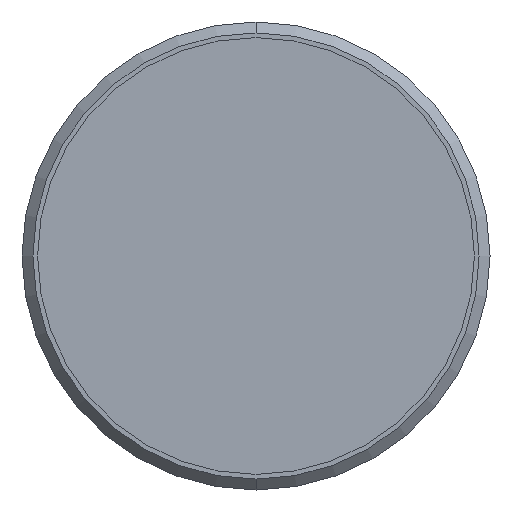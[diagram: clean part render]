
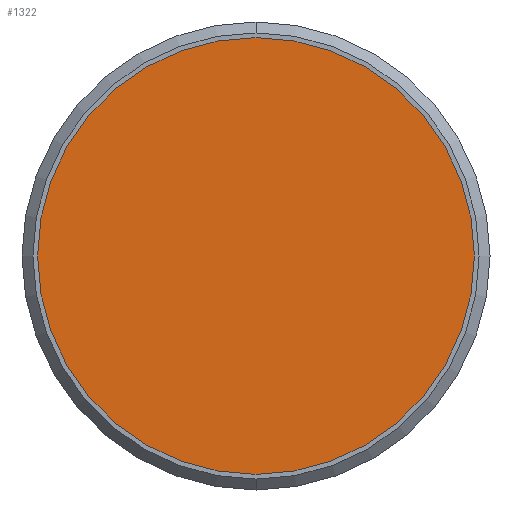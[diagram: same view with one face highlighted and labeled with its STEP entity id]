
A CAD part, front view. The second image highlights one B-rep face of the part: STEP entity #1322.
In plain terms, the highlighted planar face has unit normal (0, -1, 0).
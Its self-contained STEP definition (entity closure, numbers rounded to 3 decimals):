
#54 = EDGE_CURVE ( 'NONE', #764, #1047, #651, .T. ) ;
#65 = PLANE ( 'NONE',  #817 ) ;
#109 = EDGE_LOOP ( 'NONE', ( #568, #298 ) ) ;
#170 = CARTESIAN_POINT ( 'NONE',  ( 0., 0., -14. ) ) ;
#171 = CARTESIAN_POINT ( 'NONE',  ( 0., 0., 0. ) ) ;
#281 = DIRECTION ( 'NONE',  ( 0., 0., 1. ) ) ;
#298 = ORIENTED_EDGE ( 'NONE', *, *, #54, .F. ) ;
#331 = CIRCLE ( 'NONE', #500, 14. ) ;
#381 = EDGE_CURVE ( 'NONE', #1047, #764, #331, .T. ) ;
#385 = DIRECTION ( 'NONE',  ( 0., 1., 0. ) ) ;
#500 = AXIS2_PLACEMENT_3D ( 'NONE', #171, #385, #281 ) ;
#548 = DIRECTION ( 'NONE',  ( 0., 0., 1. ) ) ;
#568 = ORIENTED_EDGE ( 'NONE', *, *, #381, .F. ) ;
#648 = FACE_OUTER_BOUND ( 'NONE', #109, .T. ) ;
#651 = CIRCLE ( 'NONE', #675, 14. ) ;
#675 = AXIS2_PLACEMENT_3D ( 'NONE', #1074, #1183, #548 ) ;
#764 = VERTEX_POINT ( 'NONE', #1177 ) ;
#817 = AXIS2_PLACEMENT_3D ( 'NONE', #937, #1053, #1154 ) ;
#937 = CARTESIAN_POINT ( 'NONE',  ( 0., 0., 0. ) ) ;
#1047 = VERTEX_POINT ( 'NONE', #170 ) ;
#1053 = DIRECTION ( 'NONE',  ( 0., 1., 0. ) ) ;
#1074 = CARTESIAN_POINT ( 'NONE',  ( 0., 0., 0. ) ) ;
#1154 = DIRECTION ( 'NONE',  ( 0., 0., 1. ) ) ;
#1177 = CARTESIAN_POINT ( 'NONE',  ( 0., 0., 14. ) ) ;
#1183 = DIRECTION ( 'NONE',  ( 0., 1., 0. ) ) ;
#1322 = ADVANCED_FACE ( 'NONE', ( #648 ), #65, .F. ) ;
